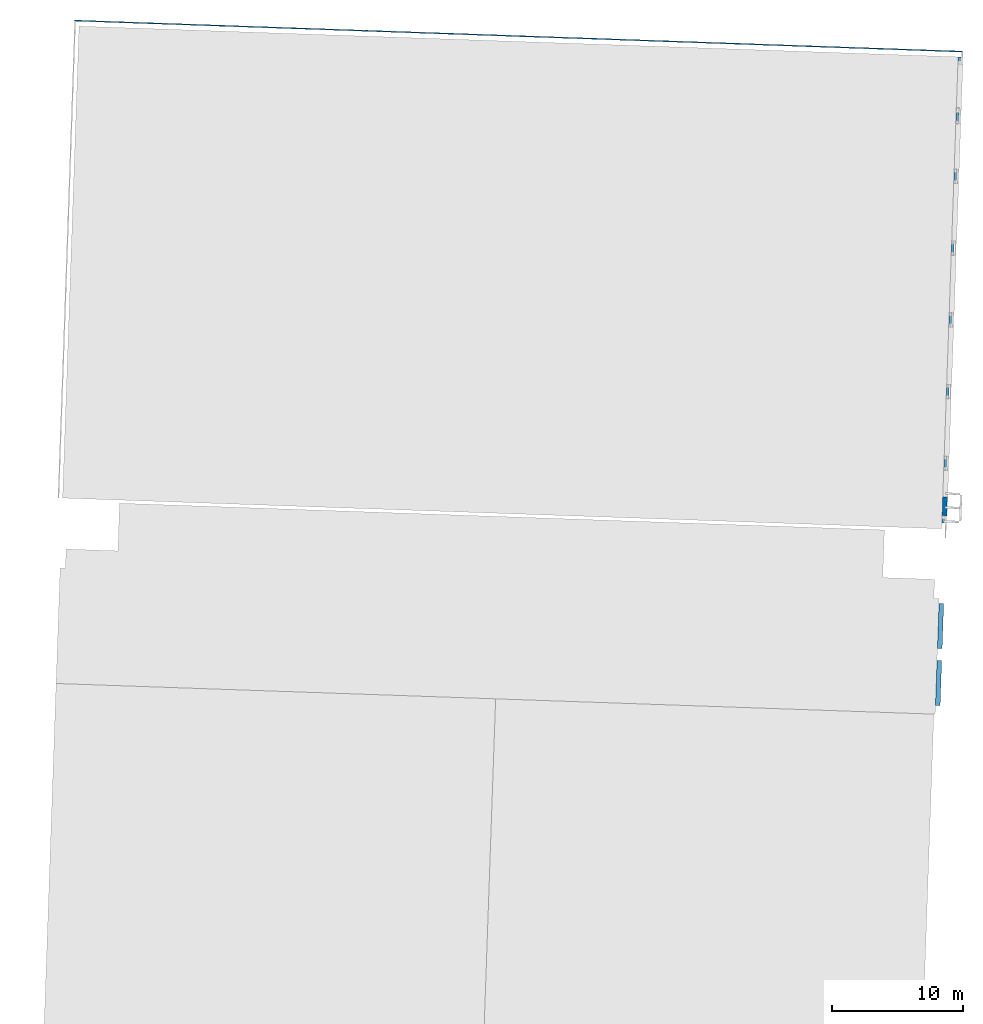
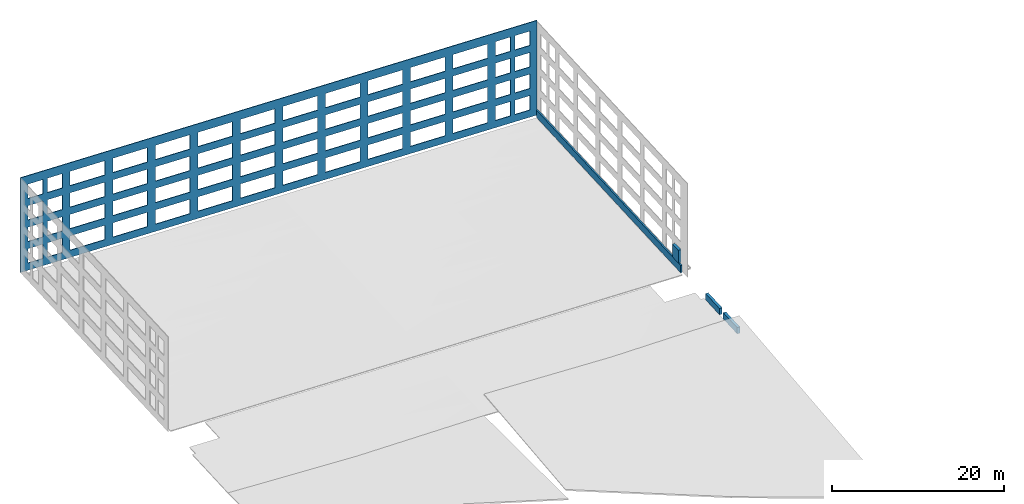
# One storey, part 3 of 7: 5 walls, 56 openings.
"""IFC2X3 building model written with IfcOpenShell, lengths in feet."""

from ifc_helpers import new_model, entity, si_unit, converted_unit, derived_unit, direction, frame, frame_2d, origin, origin_2d_with_axis, place, context, subcontext, project, spatial, rectangle, extrude, material, layer, layer_set, layer_usage, type_object, element, save


model = new_model("IFC2X3")

# Units and contexts
model_context = context("Model", 3, precision=0.0001, world=origin(), true_north=direction((0.999390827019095, 0.0348994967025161)))
body_context = subcontext(model_context, "Body", "Model", "MODEL_VIEW")
ifc_project = project(units=[converted_unit("LENGTHUNIT", "FOOT", entity("IfcRatioMeasure", 0.3048), si_unit("LENGTHUNIT", "METRE"), dimensions=[1, 0, 0, 0, 0, 0, 0]), converted_unit("AREAUNIT", "SQUARE FOOT", entity("IfcRatioMeasure", 0.09290304), si_unit("AREAUNIT", "SQUARE_METRE"), dimensions=[2, 0, 0, 0, 0, 0, 0]), converted_unit("VOLUMEUNIT", "CUBIC FOOT", entity("IfcRatioMeasure", 0.028316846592), si_unit("VOLUMEUNIT", "CUBIC_METRE"), dimensions=[3, 0, 0, 0, 0, 0, 0]), converted_unit("PLANEANGLEUNIT", "DEGREE", entity("IfcRatioMeasure", 0.0174532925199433), si_unit("PLANEANGLEUNIT", "RADIAN"), dimensions=[0, 0, 0, 0, 0, 0, 0]), si_unit("MASSUNIT", "GRAM", prefix="KILO"), si_unit("TIMEUNIT", "SECOND"), si_unit("FREQUENCYUNIT", "HERTZ"), si_unit("THERMODYNAMICTEMPERATUREUNIT", "DEGREE_CELSIUS"), derived_unit("THERMALTRANSMITTANCEUNIT", [(si_unit("MASSUNIT", "GRAM", prefix="KILO"), 1), (si_unit("THERMODYNAMICTEMPERATUREUNIT", "KELVIN"), -1), (si_unit("TIMEUNIT", "SECOND"), -3)]), derived_unit("VOLUMETRICFLOWRATEUNIT", [(si_unit("LENGTHUNIT", "METRE"), 3), (si_unit("TIMEUNIT", "SECOND"), -1)]), si_unit("ELECTRICCURRENTUNIT", "AMPERE"), si_unit("ELECTRICVOLTAGEUNIT", "VOLT"), si_unit("POWERUNIT", "WATT"), si_unit("FORCEUNIT", "NEWTON"), si_unit("ILLUMINANCEUNIT", "LUX"), si_unit("LUMINOUSFLUXUNIT", "LUMEN"), si_unit("LUMINOUSINTENSITYUNIT", "CANDELA"), derived_unit("USERDEFINED", [(si_unit("MASSUNIT", "GRAM", prefix="KILO"), -1), (si_unit("LENGTHUNIT", "METRE"), -2), (si_unit("TIMEUNIT", "SECOND"), 3), (si_unit("LUMINOUSFLUXUNIT", "LUMEN"), 1)]), derived_unit("LINEARVELOCITYUNIT", [(si_unit("LENGTHUNIT", "METRE"), 1), (si_unit("TIMEUNIT", "SECOND"), -1)]), si_unit("PRESSUREUNIT", "PASCAL"), derived_unit("USERDEFINED", [(si_unit("LENGTHUNIT", "METRE"), -2), (si_unit("MASSUNIT", "GRAM", prefix="KILO"), 1), (si_unit("TIMEUNIT", "SECOND"), -2)])], contexts=[model_context])

# Site, building, storey
site_placement = place(None, frame((892.518771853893, 322.38689265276, 0.00393700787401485), z_axis=(0.0, 0.0, 1.0), x_axis=(0.0348994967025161, 0.999390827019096, 0.0)))
site = spatial("IfcSite", under=ifc_project, at=site_placement, Name="Default", CompositionType="ELEMENT")
building_placement = place(site_placement, origin())
building = spatial("IfcBuilding", under=site, at=building_placement, CompositionType="ELEMENT")
storey_placement = place(building_placement, frame((0.0, 0.0, 567.0)))
storey = spatial("IfcBuildingStorey", under=building, at=storey_placement, Name="Existing Garage - 2nd Level", CompositionType="ELEMENT", Elevation=567.0)

# Wall, openings
ifc_material_1 = material(Name="Masonry - Brick")
ifc_layer_1 = layer(ifc_material_1, 0.302083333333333)
ifc_layer_set_1 = layer_set([ifc_layer_1], Name="Basic Wall:(Existing) Exterior - Brick Veneer 3 5/8\"")
ifc_layer_usage_1 = layer_usage(ifc_layer_set_1, "AXIS2", "POSITIVE", -0.151041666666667)
wall_type_1 = type_object("IfcWallType", Name="Basic Wall:(Existing) Exterior - Brick Veneer 3 5/8\"", PredefinedType="STANDARD", material=ifc_layer_set_1)
wall_1_placement = place(storey_placement, frame((224.276251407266, 235.566036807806, 0.0), z_axis=(0.0, 0.0, 1.0), x_axis=(0.0, 1.0, 0.0)))
wall_1 = element("IfcWallStandardCase", 1, at=wall_1_placement, inside=storey, type_object=wall_type_1, material=ifc_layer_usage_1, Name="Basic Wall:(Existing) Exterior - Brick Veneer 3 5/8\"", ObjectType="Basic Wall:(Existing) Exterior - Brick Veneer 3 5/8\"", context=body_context, shape_type="SweptSolid", body=[
    extrude(rectangle(XDim=222.697916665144, YDim=0.302083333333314, at=frame_2d((111.348958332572, -2.4980018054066e-16), x_axis=(-1.0, 0.0))), origin(), (0.0, 0.0, 1.0), 44.0),
])
opening_1_placement = place(wall_1_placement, origin())
element("IfcOpeningElement", 2, at=opening_1_placement, cuts=wall_1, Name="Basic Wall:(Existing) Exterior - Brick Veneer 3 5/8\"", ObjectType="Opening", context=body_context, shape_type="SweptSolid", body=[
    extrude(rectangle(XDim=6.6666666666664, YDim=6.41666666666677, at=frame_2d((5.6843418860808e-14, 1.4210854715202e-14), x_axis=(1.0, 0.0))), frame((6.23958333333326, 0.151041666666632, 6.66666666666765), z_axis=(0.0, -1.0, 0.0), x_axis=(0.0, 0.0, 1.0)), (0.0, 0.0, 1.0), 0.302083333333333),
])
opening_2_placement = place(wall_1_placement, origin())
element("IfcOpeningElement", 3, at=opening_2_placement, cuts=wall_1, Name="Basic Wall:(Existing) Exterior - Brick Veneer 3 5/8\"", ObjectType="Opening", context=body_context, shape_type="SweptSolid", body=[
    extrude(rectangle(XDim=6.6666666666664, YDim=6.4166666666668, at=frame_2d((-5.6843418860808e-14, -2.8421709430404e-14), x_axis=(1.0, 0.0))), frame((14.6562500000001, 0.151041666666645, 6.66666666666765), z_axis=(0.0, -1.0, 0.0), x_axis=(0.0, 0.0, -1.0)), (0.0, 0.0, 1.0), 0.302083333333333),
])
opening_3_placement = place(wall_1_placement, origin())
element("IfcOpeningElement", 4, at=opening_3_placement, cuts=wall_1, Name="Basic Wall:(Existing) Exterior - Brick Veneer 3 5/8\"", ObjectType="Opening", context=body_context, shape_type="SweptSolid", body=[
    extrude(rectangle(XDim=6.6666666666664, YDim=14.9999999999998, at=frame_2d((-5.6843418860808e-14, 2.8421709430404e-14), x_axis=(1.0, 0.0))), frame((28.6979166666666, 0.151041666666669, 6.66666666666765), z_axis=(0.0, -1.0, 0.0), x_axis=(0.0, 0.0, -1.0)), (0.0, 0.0, 1.0), 0.302083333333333),
])
opening_4_placement = place(wall_1_placement, origin())
element("IfcOpeningElement", 5, at=opening_4_placement, cuts=wall_1, Name="Basic Wall:(Existing) Exterior - Brick Veneer 3 5/8\"", ObjectType="Opening", context=body_context, shape_type="SweptSolid", body=[
    extrude(rectangle(XDim=6.66666666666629, YDim=14.9999999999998, at=origin_2d_with_axis()), frame((47.0312499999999, 0.151041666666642, 6.66666666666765), z_axis=(0.0, -1.0, 0.0), x_axis=(0.0, 0.0, -1.0)), (0.0, 0.0, 1.0), 0.302083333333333),
])
opening_5_placement = place(wall_1_placement, origin())
element("IfcOpeningElement", 6, at=opening_5_placement, cuts=wall_1, Name="Basic Wall:(Existing) Exterior - Brick Veneer 3 5/8\"", ObjectType="Opening", context=body_context, shape_type="SweptSolid", body=[
    extrude(rectangle(XDim=6.66666666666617, YDim=14.9999999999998, at=frame_2d((5.6843418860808e-14, 0.0), x_axis=(1.0, 0.0))), frame((65.3645833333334, 0.151041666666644, 6.66666666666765), z_axis=(0.0, -1.0, 0.0), x_axis=(0.0, 0.0, -1.0)), (0.0, 0.0, 1.0), 0.302083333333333),
])
opening_6_placement = place(wall_1_placement, origin())
element("IfcOpeningElement", 7, at=opening_6_placement, cuts=wall_1, Name="Basic Wall:(Existing) Exterior - Brick Veneer 3 5/8\"", ObjectType="Opening", context=body_context, shape_type="SweptSolid", body=[
    extrude(rectangle(XDim=6.66666666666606, YDim=14.9999999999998, at=frame_2d((0.0, -2.8421709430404e-14), x_axis=(1.0, 0.0))), frame((83.6979166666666, 0.151041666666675, 6.66666666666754), z_axis=(0.0, -1.0, 0.0), x_axis=(0.0, 0.0, -1.0)), (0.0, 0.0, 1.0), 0.302083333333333),
])
opening_7_placement = place(wall_1_placement, origin())
element("IfcOpeningElement", 8, at=opening_7_placement, cuts=wall_1, Name="Basic Wall:(Existing) Exterior - Brick Veneer 3 5/8\"", ObjectType="Opening", context=body_context, shape_type="SweptSolid", body=[
    extrude(rectangle(XDim=6.66666666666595, YDim=14.9999999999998, at=frame_2d((-5.6843418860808e-14, 0.0), x_axis=(1.0, 0.0))), frame((102.03125, 0.151041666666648, 6.66666666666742), z_axis=(0.0, -1.0, 0.0), x_axis=(0.0, 0.0, -1.0)), (0.0, 0.0, 1.0), 0.302083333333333),
])
opening_8_placement = place(wall_1_placement, origin())
element("IfcOpeningElement", 9, at=opening_8_placement, cuts=wall_1, Name="Basic Wall:(Existing) Exterior - Brick Veneer 3 5/8\"", ObjectType="Opening", context=body_context, shape_type="SweptSolid", body=[
    extrude(rectangle(XDim=6.66666666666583, YDim=14.9999999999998, at=origin_2d_with_axis()), frame((120.364583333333, 0.15104166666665, 6.66666666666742), z_axis=(0.0, -1.0, 0.0), x_axis=(0.0, 0.0, -1.0)), (0.0, 0.0, 1.0), 0.302083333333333),
])
opening_9_placement = place(wall_1_placement, origin())
element("IfcOpeningElement", 10, at=opening_9_placement, cuts=wall_1, Name="Basic Wall:(Existing) Exterior - Brick Veneer 3 5/8\"", ObjectType="Opening", context=body_context, shape_type="SweptSolid", body=[
    extrude(rectangle(XDim=6.66666666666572, YDim=14.9999999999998, at=frame_2d((5.6843418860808e-14, -2.8421709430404e-14), x_axis=(1.0, 0.0))), frame((138.697916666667, 0.151041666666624, 6.66666666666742), z_axis=(0.0, -1.0, 0.0), x_axis=(0.0, 0.0, -1.0)), (0.0, 0.0, 1.0), 0.302083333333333),
])
opening_10_placement = place(wall_1_placement, origin())
element("IfcOpeningElement", 11, at=opening_10_placement, cuts=wall_1, Name="Basic Wall:(Existing) Exterior - Brick Veneer 3 5/8\"", ObjectType="Opening", context=body_context, shape_type="SweptSolid", body=[
    extrude(rectangle(XDim=6.66666666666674, YDim=14.9999999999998, at=frame_2d((0.0, 2.8421709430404e-14), x_axis=(1.0, 0.0))), frame((175.36458333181, 0.151041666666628, 6.66666666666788), z_axis=(0.0, -1.0, 0.0), x_axis=(0.0, 0.0, -1.0)), (0.0, 0.0, 1.0), 0.302083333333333),
])
opening_11_placement = place(wall_1_placement, origin())
element("IfcOpeningElement", 12, at=opening_11_placement, cuts=wall_1, Name="Basic Wall:(Existing) Exterior - Brick Veneer 3 5/8\"", ObjectType="Opening", context=body_context, shape_type="SweptSolid", body=[
    extrude(rectangle(XDim=6.66666666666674, YDim=14.9999999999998, at=frame_2d((2.8421709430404e-14, 0.0), x_axis=(0.0, 1.0))), frame((157.031249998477, 0.151041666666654, 6.66666666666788), z_axis=(0.0, -1.0, 0.0), x_axis=(-1.0, 0.0, 0.0)), (0.0, 0.0, 1.0), 0.302083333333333),
])
opening_12_placement = place(wall_1_placement, origin())
element("IfcOpeningElement", 13, at=opening_12_placement, cuts=wall_1, Name="Basic Wall:(Existing) Exterior - Brick Veneer 3 5/8\"", ObjectType="Opening", context=body_context, shape_type="SweptSolid", body=[
    extrude(rectangle(XDim=6.66666666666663, YDim=14.9999999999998, at=frame_2d((0.0, -5.6843418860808e-14), x_axis=(0.0, 1.0))), frame((193.697916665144, 0.151041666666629, 6.66666666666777), z_axis=(0.0, -1.0, 0.0), x_axis=(-1.0, 0.0, 0.0)), (0.0, 0.0, 1.0), 0.302083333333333),
])
opening_13_placement = place(wall_1_placement, origin())
element("IfcOpeningElement", 14, at=opening_13_placement, cuts=wall_1, Name="Basic Wall:(Existing) Exterior - Brick Veneer 3 5/8\"", ObjectType="Opening", context=body_context, shape_type="SweptSolid", body=[
    extrude(rectangle(XDim=6.66666666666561, YDim=6.4166666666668, at=frame_2d((0.0, -2.8421709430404e-14), x_axis=(1.0, 0.0))), frame((207.73958333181, 0.151041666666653, 6.66666666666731), z_axis=(0.0, -1.0, 0.0), x_axis=(0.0, 0.0, -1.0)), (0.0, 0.0, 1.0), 0.302083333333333),
])
opening_14_placement = place(wall_1_placement, origin())
element("IfcOpeningElement", 15, at=opening_14_placement, cuts=wall_1, Name="Basic Wall:(Existing) Exterior - Brick Veneer 3 5/8\"", ObjectType="Opening", context=body_context, shape_type="SweptSolid", body=[
    extrude(rectangle(XDim=6.66666666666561, YDim=6.41666666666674, at=origin_2d_with_axis()), frame((216.156249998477, 0.151041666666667, 6.66666666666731), z_axis=(0.0, -1.0, 0.0), x_axis=(0.0, 0.0, -1.0)), (0.0, 0.0, 1.0), 0.302083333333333),
])
opening_15_placement = place(wall_1_placement, origin())
element("IfcOpeningElement", 16, at=opening_15_placement, cuts=wall_1, Name="Basic Wall:(Existing) Exterior - Brick Veneer 3 5/8\"", ObjectType="Opening", context=body_context, shape_type="SweptSolid", body=[
    extrude(rectangle(XDim=6.66666666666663, YDim=6.41666666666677, at=frame_2d((-5.6843418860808e-14, 1.4210854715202e-14), x_axis=(1.0, 0.0))), frame((6.23958333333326, 0.151041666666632, 16.6666666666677), z_axis=(0.0, -1.0, 0.0), x_axis=(0.0, 0.0, 1.0)), (0.0, 0.0, 1.0), 0.302083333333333),
])
opening_16_placement = place(wall_1_placement, origin())
element("IfcOpeningElement", 17, at=opening_16_placement, cuts=wall_1, Name="Basic Wall:(Existing) Exterior - Brick Veneer 3 5/8\"", ObjectType="Opening", context=body_context, shape_type="SweptSolid", body=[
    extrude(rectangle(XDim=6.66666666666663, YDim=6.4166666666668, at=frame_2d((5.6843418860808e-14, -2.8421709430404e-14), x_axis=(1.0, 0.0))), frame((14.6562500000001, 0.151041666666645, 16.6666666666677), z_axis=(0.0, -1.0, 0.0), x_axis=(0.0, 0.0, -1.0)), (0.0, 0.0, 1.0), 0.302083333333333),
])
opening_17_placement = place(wall_1_placement, origin())
element("IfcOpeningElement", 18, at=opening_17_placement, cuts=wall_1, Name="Basic Wall:(Existing) Exterior - Brick Veneer 3 5/8\"", ObjectType="Opening", context=body_context, shape_type="SweptSolid", body=[
    extrude(rectangle(XDim=6.66666666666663, YDim=14.9999999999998, at=frame_2d((5.6843418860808e-14, 2.8421709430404e-14), x_axis=(1.0, 0.0))), frame((28.6979166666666, 0.151041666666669, 16.6666666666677), z_axis=(0.0, -1.0, 0.0), x_axis=(0.0, 0.0, -1.0)), (0.0, 0.0, 1.0), 0.302083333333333),
])
opening_18_placement = place(wall_1_placement, origin())
element("IfcOpeningElement", 19, at=opening_18_placement, cuts=wall_1, Name="Basic Wall:(Existing) Exterior - Brick Veneer 3 5/8\"", ObjectType="Opening", context=body_context, shape_type="SweptSolid", body=[
    extrude(rectangle(XDim=6.66666666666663, YDim=14.9999999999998, at=frame_2d((-5.6843418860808e-14, 0.0), x_axis=(1.0, 0.0))), frame((47.0312499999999, 0.151041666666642, 16.6666666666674), z_axis=(0.0, -1.0, 0.0), x_axis=(0.0, 0.0, -1.0)), (0.0, 0.0, 1.0), 0.302083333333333),
])
opening_19_placement = place(wall_1_placement, origin())
element("IfcOpeningElement", 20, at=opening_19_placement, cuts=wall_1, Name="Basic Wall:(Existing) Exterior - Brick Veneer 3 5/8\"", ObjectType="Opening", context=body_context, shape_type="SweptSolid", body=[
    extrude(rectangle(XDim=6.66666666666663, YDim=14.9999999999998, at=frame_2d((5.6843418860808e-14, 0.0), x_axis=(1.0, 0.0))), frame((65.3645833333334, 0.151041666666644, 16.6666666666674), z_axis=(0.0, -1.0, 0.0), x_axis=(0.0, 0.0, -1.0)), (0.0, 0.0, 1.0), 0.302083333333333),
])
opening_20_placement = place(wall_1_placement, origin())
element("IfcOpeningElement", 21, at=opening_20_placement, cuts=wall_1, Name="Basic Wall:(Existing) Exterior - Brick Veneer 3 5/8\"", ObjectType="Opening", context=body_context, shape_type="SweptSolid", body=[
    extrude(rectangle(XDim=6.66666666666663, YDim=14.9999999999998, at=frame_2d((-5.6843418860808e-14, -2.8421709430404e-14), x_axis=(1.0, 0.0))), frame((83.6979166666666, 0.151041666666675, 16.6666666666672), z_axis=(0.0, -1.0, 0.0), x_axis=(0.0, 0.0, -1.0)), (0.0, 0.0, 1.0), 0.302083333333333),
])
opening_21_placement = place(wall_1_placement, origin())
element("IfcOpeningElement", 22, at=opening_21_placement, cuts=wall_1, Name="Basic Wall:(Existing) Exterior - Brick Veneer 3 5/8\"", ObjectType="Opening", context=body_context, shape_type="SweptSolid", body=[
    extrude(rectangle(XDim=6.66666666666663, YDim=14.9999999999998, at=frame_2d((5.6843418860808e-14, 0.0), x_axis=(1.0, 0.0))), frame((102.03125, 0.151041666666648, 16.6666666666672), z_axis=(0.0, -1.0, 0.0), x_axis=(0.0, 0.0, -1.0)), (0.0, 0.0, 1.0), 0.302083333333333),
])
opening_22_placement = place(wall_1_placement, origin())
element("IfcOpeningElement", 23, at=opening_22_placement, cuts=wall_1, Name="Basic Wall:(Existing) Exterior - Brick Veneer 3 5/8\"", ObjectType="Opening", context=body_context, shape_type="SweptSolid", body=[
    extrude(rectangle(XDim=6.66666666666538, YDim=14.9999999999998, at=origin_2d_with_axis()), frame((120.364583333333, 0.15104166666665, 16.6666666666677), z_axis=(0.0, -1.0, 0.0), x_axis=(0.0, 0.0, -1.0)), (0.0, 0.0, 1.0), 0.302083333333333),
])
opening_23_placement = place(wall_1_placement, origin())
element("IfcOpeningElement", 24, at=opening_23_placement, cuts=wall_1, Name="Basic Wall:(Existing) Exterior - Brick Veneer 3 5/8\"", ObjectType="Opening", context=body_context, shape_type="SweptSolid", body=[
    extrude(rectangle(XDim=6.66666666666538, YDim=14.9999999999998, at=frame_2d((0.0, -2.8421709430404e-14), x_axis=(1.0, 0.0))), frame((138.697916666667, 0.151041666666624, 16.6666666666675), z_axis=(0.0, -1.0, 0.0), x_axis=(0.0, 0.0, -1.0)), (0.0, 0.0, 1.0), 0.302083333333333),
])
opening_24_placement = place(wall_1_placement, origin())
element("IfcOpeningElement", 25, at=opening_24_placement, cuts=wall_1, Name="Basic Wall:(Existing) Exterior - Brick Veneer 3 5/8\"", ObjectType="Opening", context=body_context, shape_type="SweptSolid", body=[
    extrude(rectangle(XDim=6.66666666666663, YDim=14.9999999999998, at=frame_2d((-5.6843418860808e-14, 2.8421709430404e-14), x_axis=(1.0, 0.0))), frame((175.36458333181, 0.151041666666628, 16.6666666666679), z_axis=(0.0, -1.0, 0.0), x_axis=(0.0, 0.0, -1.0)), (0.0, 0.0, 1.0), 0.302083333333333),
])
opening_25_placement = place(wall_1_placement, origin())
element("IfcOpeningElement", 26, at=opening_25_placement, cuts=wall_1, Name="Basic Wall:(Existing) Exterior - Brick Veneer 3 5/8\"", ObjectType="Opening", context=body_context, shape_type="SweptSolid", body=[
    extrude(rectangle(XDim=6.66666666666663, YDim=14.9999999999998, at=frame_2d((2.8421709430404e-14, -5.6843418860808e-14), x_axis=(0.0, 1.0))), frame((157.031249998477, 0.151041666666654, 16.6666666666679), z_axis=(0.0, -1.0, 0.0), x_axis=(-1.0, 0.0, 0.0)), (0.0, 0.0, 1.0), 0.302083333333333),
])
opening_26_placement = place(wall_1_placement, origin())
element("IfcOpeningElement", 27, at=opening_26_placement, cuts=wall_1, Name="Basic Wall:(Existing) Exterior - Brick Veneer 3 5/8\"", ObjectType="Opening", context=body_context, shape_type="SweptSolid", body=[
    extrude(rectangle(XDim=6.66666666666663, YDim=14.9999999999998, at=frame_2d((0.0, -5.6843418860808e-14), x_axis=(0.0, 1.0))), frame((193.697916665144, 0.151041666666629, 16.6666666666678), z_axis=(0.0, -1.0, 0.0), x_axis=(-1.0, 0.0, 0.0)), (0.0, 0.0, 1.0), 0.302083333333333),
])
opening_27_placement = place(wall_1_placement, origin())
element("IfcOpeningElement", 28, at=opening_27_placement, cuts=wall_1, Name="Basic Wall:(Existing) Exterior - Brick Veneer 3 5/8\"", ObjectType="Opening", context=body_context, shape_type="SweptSolid", body=[
    extrude(rectangle(XDim=6.66666666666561, YDim=6.4166666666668, at=frame_2d((0.0, -2.8421709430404e-14), x_axis=(1.0, 0.0))), frame((207.73958333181, 0.151041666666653, 16.6666666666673), z_axis=(0.0, -1.0, 0.0), x_axis=(0.0, 0.0, -1.0)), (0.0, 0.0, 1.0), 0.302083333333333),
])
opening_28_placement = place(wall_1_placement, origin())
element("IfcOpeningElement", 29, at=opening_28_placement, cuts=wall_1, Name="Basic Wall:(Existing) Exterior - Brick Veneer 3 5/8\"", ObjectType="Opening", context=body_context, shape_type="SweptSolid", body=[
    extrude(rectangle(XDim=6.66666666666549, YDim=6.41666666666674, at=frame_2d((5.6843418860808e-14, 0.0), x_axis=(1.0, 0.0))), frame((216.156249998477, 0.151041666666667, 16.6666666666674), z_axis=(0.0, -1.0, 0.0), x_axis=(0.0, 0.0, -1.0)), (0.0, 0.0, 1.0), 0.302083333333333),
])
opening_29_placement = place(wall_1_placement, origin())
element("IfcOpeningElement", 30, at=opening_29_placement, cuts=wall_1, Name="Basic Wall:(Existing) Exterior - Brick Veneer 3 5/8\"", ObjectType="Opening", context=body_context, shape_type="SweptSolid", body=[
    extrude(rectangle(XDim=6.66666666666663, YDim=6.41666666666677, at=frame_2d((-5.6843418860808e-14, -1.4210854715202e-14), x_axis=(1.0, 0.0))), frame((6.2395833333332, 0.151041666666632, 26.6666666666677), z_axis=(0.0, -1.0, 0.0), x_axis=(0.0, 0.0, 1.0)), (0.0, 0.0, 1.0), 0.302083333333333),
])
opening_30_placement = place(wall_1_placement, origin())
element("IfcOpeningElement", 31, at=opening_30_placement, cuts=wall_1, Name="Basic Wall:(Existing) Exterior - Brick Veneer 3 5/8\"", ObjectType="Opening", context=body_context, shape_type="SweptSolid", body=[
    extrude(rectangle(XDim=6.66666666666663, YDim=6.4166666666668, at=frame_2d((5.6843418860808e-14, 0.0), x_axis=(1.0, 0.0))), frame((14.65625, 0.151041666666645, 26.6666666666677), z_axis=(0.0, -1.0, 0.0), x_axis=(0.0, 0.0, -1.0)), (0.0, 0.0, 1.0), 0.302083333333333),
])
opening_31_placement = place(wall_1_placement, origin())
element("IfcOpeningElement", 32, at=opening_31_placement, cuts=wall_1, Name="Basic Wall:(Existing) Exterior - Brick Veneer 3 5/8\"", ObjectType="Opening", context=body_context, shape_type="SweptSolid", body=[
    extrude(rectangle(XDim=6.66666666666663, YDim=14.9999999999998, at=frame_2d((5.6843418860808e-14, 0.0), x_axis=(1.0, 0.0))), frame((28.6979166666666, 0.151041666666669, 26.6666666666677), z_axis=(0.0, -1.0, 0.0), x_axis=(0.0, 0.0, -1.0)), (0.0, 0.0, 1.0), 0.302083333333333),
])
opening_32_placement = place(wall_1_placement, origin())
element("IfcOpeningElement", 33, at=opening_32_placement, cuts=wall_1, Name="Basic Wall:(Existing) Exterior - Brick Veneer 3 5/8\"", ObjectType="Opening", context=body_context, shape_type="SweptSolid", body=[
    extrude(rectangle(XDim=6.66666666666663, YDim=14.9999999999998, at=frame_2d((-5.6843418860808e-14, 0.0), x_axis=(1.0, 0.0))), frame((47.0312499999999, 0.151041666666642, 26.6666666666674), z_axis=(0.0, -1.0, 0.0), x_axis=(0.0, 0.0, -1.0)), (0.0, 0.0, 1.0), 0.302083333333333),
])
opening_33_placement = place(wall_1_placement, origin())
element("IfcOpeningElement", 34, at=opening_33_placement, cuts=wall_1, Name="Basic Wall:(Existing) Exterior - Brick Veneer 3 5/8\"", ObjectType="Opening", context=body_context, shape_type="SweptSolid", body=[
    extrude(rectangle(XDim=6.66666666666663, YDim=14.9999999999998, at=frame_2d((5.6843418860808e-14, 0.0), x_axis=(1.0, 0.0))), frame((65.3645833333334, 0.151041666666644, 26.6666666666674), z_axis=(0.0, -1.0, 0.0), x_axis=(0.0, 0.0, -1.0)), (0.0, 0.0, 1.0), 0.302083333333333),
])
opening_34_placement = place(wall_1_placement, origin())
element("IfcOpeningElement", 35, at=opening_34_placement, cuts=wall_1, Name="Basic Wall:(Existing) Exterior - Brick Veneer 3 5/8\"", ObjectType="Opening", context=body_context, shape_type="SweptSolid", body=[
    extrude(rectangle(XDim=6.66666666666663, YDim=14.9999999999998, at=frame_2d((-5.6843418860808e-14, 0.0), x_axis=(1.0, 0.0))), frame((83.6979166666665, 0.151041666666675, 26.6666666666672), z_axis=(0.0, -1.0, 0.0), x_axis=(0.0, 0.0, -1.0)), (0.0, 0.0, 1.0), 0.302083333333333),
])
opening_35_placement = place(wall_1_placement, origin())
element("IfcOpeningElement", 36, at=opening_35_placement, cuts=wall_1, Name="Basic Wall:(Existing) Exterior - Brick Veneer 3 5/8\"", ObjectType="Opening", context=body_context, shape_type="SweptSolid", body=[
    extrude(rectangle(XDim=6.66666666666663, YDim=14.9999999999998, at=frame_2d((5.6843418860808e-14, 0.0), x_axis=(1.0, 0.0))), frame((102.03125, 0.151041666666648, 26.6666666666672), z_axis=(0.0, -1.0, 0.0), x_axis=(0.0, 0.0, -1.0)), (0.0, 0.0, 1.0), 0.302083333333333),
])
opening_36_placement = place(wall_1_placement, origin())
element("IfcOpeningElement", 37, at=opening_36_placement, cuts=wall_1, Name="Basic Wall:(Existing) Exterior - Brick Veneer 3 5/8\"", ObjectType="Opening", context=body_context, shape_type="SweptSolid", body=[
    extrude(rectangle(XDim=6.66666666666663, YDim=14.9999999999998, at=frame_2d((-5.6843418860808e-14, 0.0), x_axis=(1.0, 0.0))), frame((120.364583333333, 0.15104166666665, 26.666666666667), z_axis=(0.0, -1.0, 0.0), x_axis=(0.0, 0.0, -1.0)), (0.0, 0.0, 1.0), 0.302083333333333),
])
opening_37_placement = place(wall_1_placement, origin())
element("IfcOpeningElement", 38, at=opening_37_placement, cuts=wall_1, Name="Basic Wall:(Existing) Exterior - Brick Veneer 3 5/8\"", ObjectType="Opening", context=body_context, shape_type="SweptSolid", body=[
    extrude(rectangle(XDim=6.66666666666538, YDim=14.9999999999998, at=origin_2d_with_axis()), frame((138.697916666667, 0.151041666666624, 26.6666666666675), z_axis=(0.0, -1.0, 0.0), x_axis=(0.0, 0.0, -1.0)), (0.0, 0.0, 1.0), 0.302083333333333),
])
opening_38_placement = place(wall_1_placement, origin())
element("IfcOpeningElement", 39, at=opening_38_placement, cuts=wall_1, Name="Basic Wall:(Existing) Exterior - Brick Veneer 3 5/8\"", ObjectType="Opening", context=body_context, shape_type="SweptSolid", body=[
    extrude(rectangle(XDim=6.66666666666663, YDim=14.9999999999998, at=frame_2d((-5.6843418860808e-14, 0.0), x_axis=(1.0, 0.0))), frame((175.36458333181, 0.151041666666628, 26.6666666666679), z_axis=(0.0, -1.0, 0.0), x_axis=(0.0, 0.0, -1.0)), (0.0, 0.0, 1.0), 0.302083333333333),
])
opening_39_placement = place(wall_1_placement, origin())
element("IfcOpeningElement", 40, at=opening_39_placement, cuts=wall_1, Name="Basic Wall:(Existing) Exterior - Brick Veneer 3 5/8\"", ObjectType="Opening", context=body_context, shape_type="SweptSolid", body=[
    extrude(rectangle(XDim=6.66666666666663, YDim=14.9999999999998, at=frame_2d((0.0, -5.6843418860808e-14), x_axis=(0.0, 1.0))), frame((157.031249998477, 0.151041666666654, 26.6666666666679), z_axis=(0.0, -1.0, 0.0), x_axis=(-1.0, 0.0, 0.0)), (0.0, 0.0, 1.0), 0.302083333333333),
])
opening_40_placement = place(wall_1_placement, origin())
element("IfcOpeningElement", 41, at=opening_40_placement, cuts=wall_1, Name="Basic Wall:(Existing) Exterior - Brick Veneer 3 5/8\"", ObjectType="Opening", context=body_context, shape_type="SweptSolid", body=[
    extrude(rectangle(XDim=6.66666666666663, YDim=14.9999999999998, at=frame_2d((0.0, -5.6843418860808e-14), x_axis=(0.0, 1.0))), frame((193.697916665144, 0.151041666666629, 26.6666666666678), z_axis=(0.0, -1.0, 0.0), x_axis=(-1.0, 0.0, 0.0)), (0.0, 0.0, 1.0), 0.302083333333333),
])
opening_41_placement = place(wall_1_placement, origin())
element("IfcOpeningElement", 42, at=opening_41_placement, cuts=wall_1, Name="Basic Wall:(Existing) Exterior - Brick Veneer 3 5/8\"", ObjectType="Opening", context=body_context, shape_type="SweptSolid", body=[
    extrude(rectangle(XDim=6.66666666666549, YDim=6.41666666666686, at=frame_2d((5.6843418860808e-14, 0.0), x_axis=(1.0, 0.0))), frame((207.73958333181, 0.151041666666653, 26.6666666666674), z_axis=(0.0, -1.0, 0.0), x_axis=(0.0, 0.0, -1.0)), (0.0, 0.0, 1.0), 0.302083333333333),
])
opening_42_placement = place(wall_1_placement, origin())
element("IfcOpeningElement", 43, at=opening_42_placement, cuts=wall_1, Name="Basic Wall:(Existing) Exterior - Brick Veneer 3 5/8\"", ObjectType="Opening", context=body_context, shape_type="SweptSolid", body=[
    extrude(rectangle(XDim=6.66666666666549, YDim=6.41666666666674, at=frame_2d((5.6843418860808e-14, 0.0), x_axis=(1.0, 0.0))), frame((216.156249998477, 0.151041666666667, 26.6666666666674), z_axis=(0.0, -1.0, 0.0), x_axis=(0.0, 0.0, -1.0)), (0.0, 0.0, 1.0), 0.302083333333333),
])
opening_43_placement = place(wall_1_placement, origin())
element("IfcOpeningElement", 44, at=opening_43_placement, cuts=wall_1, Name="Basic Wall:(Existing) Exterior - Brick Veneer 3 5/8\"", ObjectType="Opening", context=body_context, shape_type="SweptSolid", body=[
    extrude(rectangle(XDim=6.66666666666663, YDim=6.4166666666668, at=frame_2d((-5.6843418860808e-14, -1.4210854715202e-14), x_axis=(1.0, 0.0))), frame((6.23958333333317, 0.151041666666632, 36.6666666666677), z_axis=(0.0, -1.0, 0.0), x_axis=(0.0, 0.0, 1.0)), (0.0, 0.0, 1.0), 0.302083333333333),
])
opening_44_placement = place(wall_1_placement, origin())
element("IfcOpeningElement", 45, at=opening_44_placement, cuts=wall_1, Name="Basic Wall:(Existing) Exterior - Brick Veneer 3 5/8\"", ObjectType="Opening", context=body_context, shape_type="SweptSolid", body=[
    extrude(rectangle(XDim=6.66666666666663, YDim=6.4166666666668, at=frame_2d((5.6843418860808e-14, 1.4210854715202e-14), x_axis=(1.0, 0.0))), frame((14.65625, 0.151041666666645, 36.6666666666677), z_axis=(0.0, -1.0, 0.0), x_axis=(0.0, 0.0, -1.0)), (0.0, 0.0, 1.0), 0.302083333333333),
])
opening_45_placement = place(wall_1_placement, origin())
element("IfcOpeningElement", 46, at=opening_45_placement, cuts=wall_1, Name="Basic Wall:(Existing) Exterior - Brick Veneer 3 5/8\"", ObjectType="Opening", context=body_context, shape_type="SweptSolid", body=[
    extrude(rectangle(XDim=6.66666666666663, YDim=14.9999999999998, at=frame_2d((5.6843418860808e-14, 0.0), x_axis=(1.0, 0.0))), frame((28.6979166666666, 0.151041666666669, 36.6666666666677), z_axis=(0.0, -1.0, 0.0), x_axis=(0.0, 0.0, -1.0)), (0.0, 0.0, 1.0), 0.302083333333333),
])
opening_46_placement = place(wall_1_placement, origin())
element("IfcOpeningElement", 47, at=opening_46_placement, cuts=wall_1, Name="Basic Wall:(Existing) Exterior - Brick Veneer 3 5/8\"", ObjectType="Opening", context=body_context, shape_type="SweptSolid", body=[
    extrude(rectangle(XDim=6.66666666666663, YDim=14.9999999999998, at=frame_2d((-5.6843418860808e-14, 0.0), x_axis=(1.0, 0.0))), frame((47.0312499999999, 0.151041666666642, 36.6666666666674), z_axis=(0.0, -1.0, 0.0), x_axis=(0.0, 0.0, -1.0)), (0.0, 0.0, 1.0), 0.302083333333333),
])
opening_47_placement = place(wall_1_placement, origin())
element("IfcOpeningElement", 48, at=opening_47_placement, cuts=wall_1, Name="Basic Wall:(Existing) Exterior - Brick Veneer 3 5/8\"", ObjectType="Opening", context=body_context, shape_type="SweptSolid", body=[
    extrude(rectangle(XDim=6.66666666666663, YDim=14.9999999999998, at=frame_2d((5.6843418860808e-14, 0.0), x_axis=(1.0, 0.0))), frame((65.3645833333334, 0.151041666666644, 36.6666666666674), z_axis=(0.0, -1.0, 0.0), x_axis=(0.0, 0.0, -1.0)), (0.0, 0.0, 1.0), 0.302083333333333),
])
opening_48_placement = place(wall_1_placement, origin())
element("IfcOpeningElement", 49, at=opening_48_placement, cuts=wall_1, Name="Basic Wall:(Existing) Exterior - Brick Veneer 3 5/8\"", ObjectType="Opening", context=body_context, shape_type="SweptSolid", body=[
    extrude(rectangle(XDim=6.66666666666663, YDim=14.9999999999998, at=frame_2d((-5.6843418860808e-14, 0.0), x_axis=(1.0, 0.0))), frame((83.6979166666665, 0.151041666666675, 36.6666666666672), z_axis=(0.0, -1.0, 0.0), x_axis=(0.0, 0.0, -1.0)), (0.0, 0.0, 1.0), 0.302083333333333),
])
opening_49_placement = place(wall_1_placement, origin())
element("IfcOpeningElement", 50, at=opening_49_placement, cuts=wall_1, Name="Basic Wall:(Existing) Exterior - Brick Veneer 3 5/8\"", ObjectType="Opening", context=body_context, shape_type="SweptSolid", body=[
    extrude(rectangle(XDim=6.66666666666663, YDim=14.9999999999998, at=frame_2d((5.6843418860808e-14, 0.0), x_axis=(1.0, 0.0))), frame((102.03125, 0.151041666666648, 36.6666666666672), z_axis=(0.0, -1.0, 0.0), x_axis=(0.0, 0.0, -1.0)), (0.0, 0.0, 1.0), 0.302083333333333),
])
opening_50_placement = place(wall_1_placement, origin())
element("IfcOpeningElement", 51, at=opening_50_placement, cuts=wall_1, Name="Basic Wall:(Existing) Exterior - Brick Veneer 3 5/8\"", ObjectType="Opening", context=body_context, shape_type="SweptSolid", body=[
    extrude(rectangle(XDim=6.66666666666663, YDim=14.9999999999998, at=frame_2d((-5.6843418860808e-14, 0.0), x_axis=(1.0, 0.0))), frame((120.364583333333, 0.15104166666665, 36.666666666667), z_axis=(0.0, -1.0, 0.0), x_axis=(0.0, 0.0, -1.0)), (0.0, 0.0, 1.0), 0.302083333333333),
])
opening_51_placement = place(wall_1_placement, origin())
element("IfcOpeningElement", 52, at=opening_51_placement, cuts=wall_1, Name="Basic Wall:(Existing) Exterior - Brick Veneer 3 5/8\"", ObjectType="Opening", context=body_context, shape_type="SweptSolid", body=[
    extrude(rectangle(XDim=6.66666666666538, YDim=14.9999999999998, at=origin_2d_with_axis()), frame((138.697916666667, 0.151041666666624, 36.6666666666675), z_axis=(0.0, -1.0, 0.0), x_axis=(0.0, 0.0, -1.0)), (0.0, 0.0, 1.0), 0.302083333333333),
])
opening_52_placement = place(wall_1_placement, origin())
element("IfcOpeningElement", 53, at=opening_52_placement, cuts=wall_1, Name="Basic Wall:(Existing) Exterior - Brick Veneer 3 5/8\"", ObjectType="Opening", context=body_context, shape_type="SweptSolid", body=[
    extrude(rectangle(XDim=6.66666666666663, YDim=14.9999999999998, at=frame_2d((-5.6843418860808e-14, 0.0), x_axis=(1.0, 0.0))), frame((175.36458333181, 0.151041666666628, 36.6666666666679), z_axis=(0.0, -1.0, 0.0), x_axis=(0.0, 0.0, -1.0)), (0.0, 0.0, 1.0), 0.302083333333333),
])
opening_53_placement = place(wall_1_placement, origin())
element("IfcOpeningElement", 54, at=opening_53_placement, cuts=wall_1, Name="Basic Wall:(Existing) Exterior - Brick Veneer 3 5/8\"", ObjectType="Opening", context=body_context, shape_type="SweptSolid", body=[
    extrude(rectangle(XDim=6.66666666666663, YDim=14.9999999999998, at=frame_2d((0.0, -5.6843418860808e-14), x_axis=(0.0, 1.0))), frame((157.031249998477, 0.151041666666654, 36.6666666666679), z_axis=(0.0, -1.0, 0.0), x_axis=(-1.0, 0.0, 0.0)), (0.0, 0.0, 1.0), 0.302083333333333),
])
opening_54_placement = place(wall_1_placement, origin())
element("IfcOpeningElement", 55, at=opening_54_placement, cuts=wall_1, Name="Basic Wall:(Existing) Exterior - Brick Veneer 3 5/8\"", ObjectType="Opening", context=body_context, shape_type="SweptSolid", body=[
    extrude(rectangle(XDim=6.66666666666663, YDim=14.9999999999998, at=frame_2d((0.0, -5.6843418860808e-14), x_axis=(0.0, 1.0))), frame((193.697916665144, 0.151041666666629, 36.6666666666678), z_axis=(0.0, -1.0, 0.0), x_axis=(-1.0, 0.0, 0.0)), (0.0, 0.0, 1.0), 0.302083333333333),
])
opening_55_placement = place(wall_1_placement, origin())
element("IfcOpeningElement", 56, at=opening_55_placement, cuts=wall_1, Name="Basic Wall:(Existing) Exterior - Brick Veneer 3 5/8\"", ObjectType="Opening", context=body_context, shape_type="SweptSolid", body=[
    extrude(rectangle(XDim=6.66666666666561, YDim=6.41666666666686, at=origin_2d_with_axis()), frame((207.73958333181, 0.151041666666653, 36.6666666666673), z_axis=(0.0, -1.0, 0.0), x_axis=(0.0, 0.0, -1.0)), (0.0, 0.0, 1.0), 0.302083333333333),
])
opening_56_placement = place(wall_1_placement, origin())
element("IfcOpeningElement", 57, at=opening_56_placement, cuts=wall_1, Name="Basic Wall:(Existing) Exterior - Brick Veneer 3 5/8\"", ObjectType="Opening", context=body_context, shape_type="SweptSolid", body=[
    extrude(rectangle(XDim=6.66666666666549, YDim=6.41666666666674, at=frame_2d((5.6843418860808e-14, 0.0), x_axis=(1.0, 0.0))), frame((216.156249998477, 0.151041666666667, 36.6666666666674), z_axis=(0.0, -1.0, 0.0), x_axis=(0.0, 0.0, -1.0)), (0.0, 0.0, 1.0), 0.302083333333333),
])

# Walls
ifc_layer_2 = layer(ifc_material_1, 0.302083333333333)
ifc_material_2 = material(Name="Misc. Air Layers - Air Space")
ifc_layer_3 = layer(ifc_material_2, 0.197916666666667)
ifc_material_3 = material(Name="Concrete - Cast-in-Place Concrete_hatch surface")
ifc_layer_4 = layer(ifc_material_3, 0.666666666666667)
ifc_layer_set_2 = layer_set([ifc_layer_2, ifc_layer_3, ifc_layer_4], Name="Basic Wall:(existing)Exterior - Brick on Conc - 1'-2\"(2\" air space)")
ifc_layer_usage_2 = layer_usage(ifc_layer_set_2, "AXIS2", "POSITIVE", -0.583333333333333)
wall_type_2 = type_object("IfcWallType", Name="Basic Wall:(existing)Exterior - Brick on Conc - 1'-2\"(2\" air space)", PredefinedType="STANDARD", material=ifc_layer_set_2)
wall_2_placement = place(storey_placement, frame((74.4272968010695, 235.847286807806, 0.0)))
element("IfcWallStandardCase", 58, at=wall_2_placement, inside=storey, type_object=wall_type_2, material=ifc_layer_usage_2, Name="Basic Wall:(existing)Exterior - Brick on Conc - 1'-2\"(2\" air space)", ObjectType="Basic Wall:(existing)Exterior - Brick on Conc - 1'-2\"(2\" air space)", context=body_context, shape_type="SweptSolid", body=[
    extrude(rectangle(XDim=11.3333333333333, YDim=1.16666666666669, at=frame_2d((5.66666666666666, 0.0), x_axis=(-1.0, 0.0))), origin(), (0.0, 0.0, 1.0), 2.89583333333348),
])
ifc_layer_usage_3 = layer_usage(ifc_layer_set_2, "AXIS2", "POSITIVE", -0.583333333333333)
wall_3_placement = place(storey_placement, frame((60.0939209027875, 235.847286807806, 0.0)))
element("IfcWallStandardCase", 59, at=wall_3_placement, inside=storey, type_object=wall_type_2, material=ifc_layer_usage_3, Name="Basic Wall:(existing)Exterior - Brick on Conc - 1'-2\"(2\" air space)", ObjectType="Basic Wall:(existing)Exterior - Brick on Conc - 1'-2\"(2\" air space)", context=body_context, shape_type="SweptSolid", body=[
    extrude(rectangle(XDim=11.333375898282, YDim=1.16666666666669, at=frame_2d((5.66668794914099, 0.0), x_axis=(-1.0, 0.0))), origin(), (0.0, 0.0, 1.0), 2.89583333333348),
])
ifc_layer_5 = layer(ifc_material_1, 0.302083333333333)
ifc_material_4 = material(Name="Air Barrier - Air Infiltration Barrier")
ifc_layer_6 = layer(ifc_material_4, 0.229166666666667)
ifc_material_5 = material(Name="Masonry - Concrete Masonry Units")
ifc_layer_7 = layer(ifc_material_5, 0.635416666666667)
ifc_layer_set_3 = layer_set([ifc_layer_5, ifc_layer_6, ifc_layer_7], Name="Basic Wall:(existing) Exterior - Brick on CMU - 1'-2\"")
ifc_layer_usage_4 = layer_usage(ifc_layer_set_3, "AXIS2", "POSITIVE", -0.583333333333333)
wall_type_3 = type_object("IfcWallType", Name="Basic Wall:(existing) Exterior - Brick on CMU - 1'-2\"", PredefinedType="STANDARD", material=ifc_layer_set_3)
wall_4_placement = place(storey_placement, frame((107.758753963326, 235.847286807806, 3.37999999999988)))
element("IfcWallStandardCase", 60, at=wall_4_placement, inside=storey, type_object=wall_type_3, material=ifc_layer_usage_4, Name="Basic Wall:(existing) Exterior - Brick on CMU - 1'-2\"", ObjectType="Basic Wall:(existing) Exterior - Brick on CMU - 1'-2\"", context=body_context, shape_type="SweptSolid", body=[
    extrude(rectangle(XDim=4.75093622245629, YDim=1.16666666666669, at=frame_2d((2.37546811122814, 0.0), x_axis=(-1.0, 0.0))), origin(), (0.0, 0.0, 1.0), 5.95333333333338),
])
ifc_material_6 = material(Name="Concrete - Cast-in-Place Concrete")
ifc_layer_8 = layer(ifc_material_6, 0.666666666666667)
ifc_layer_set_4 = layer_set([ifc_layer_8], Name="Basic Wall:Exterior - Conc 8\"")
ifc_layer_usage_5 = layer_usage(ifc_layer_set_4, "AXIS2", "NEGATIVE", 0.333333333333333)
wall_type_4 = type_object("IfcWallType", Name="Basic Wall:Exterior - Conc 8\"", PredefinedType="STANDARD", material=ifc_layer_set_4)
wall_5_placement = place(storey_placement, frame((222.927293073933, 236.097286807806, 0.0), z_axis=(0.0, 0.0, 1.0), x_axis=(-1.0, 0.0, 0.0)))
element("IfcWallStandardCase", 61, at=wall_5_placement, inside=storey, type_object=wall_type_4, material=ifc_layer_usage_5, Name="Basic Wall:Exterior - Conc 8\"", ObjectType="Basic Wall:Exterior - Conc 8\"", context=body_context, shape_type="SweptSolid", body=[
    extrude(rectangle(XDim=116.999999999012, YDim=0.666666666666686, at=frame_2d((58.499999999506, -5.68989300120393e-15), x_axis=(-1.0, 0.0))), origin(), (0.0, 0.0, 1.0), 3.38000000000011),
])

save(model, "model.ifc")
